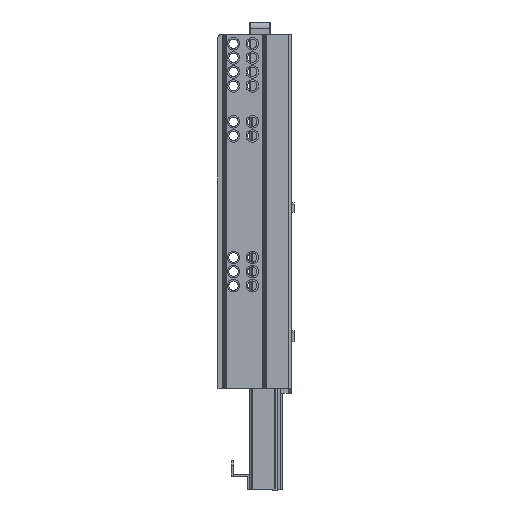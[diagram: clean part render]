
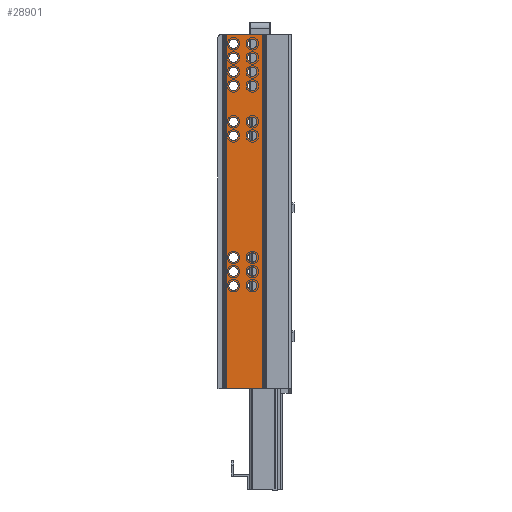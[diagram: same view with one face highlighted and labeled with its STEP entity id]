
A CAD part, left-side view. The second image highlights one B-rep face of the part: STEP entity #28901.
In plain terms, the highlighted planar face has unit normal (-1, 0, 0).
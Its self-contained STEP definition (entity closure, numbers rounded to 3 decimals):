
#829=FACE_BOUND('',#5920,.T.);
#830=FACE_BOUND('',#5921,.T.);
#831=FACE_BOUND('',#5922,.T.);
#832=FACE_BOUND('',#5923,.T.);
#833=FACE_BOUND('',#5924,.T.);
#834=FACE_BOUND('',#5925,.T.);
#835=FACE_BOUND('',#5926,.T.);
#836=FACE_BOUND('',#5927,.T.);
#837=FACE_BOUND('',#5928,.T.);
#838=FACE_BOUND('',#5929,.T.);
#839=FACE_BOUND('',#5930,.T.);
#840=FACE_BOUND('',#5931,.T.);
#841=FACE_BOUND('',#5932,.T.);
#842=FACE_BOUND('',#5933,.T.);
#843=FACE_BOUND('',#5934,.T.);
#844=FACE_BOUND('',#5935,.T.);
#845=FACE_BOUND('',#5936,.T.);
#846=FACE_BOUND('',#5937,.T.);
#1877=CIRCLE('',#30780,3.);
#1880=CIRCLE('',#30785,3.);
#1883=CIRCLE('',#30790,3.);
#1886=CIRCLE('',#30795,3.);
#1889=CIRCLE('',#30800,3.);
#1892=CIRCLE('',#30805,3.);
#1895=CIRCLE('',#30810,3.);
#1898=CIRCLE('',#30815,3.);
#1901=CIRCLE('',#30820,3.);
#1904=CIRCLE('',#30825,3.);
#1907=CIRCLE('',#30830,3.);
#1910=CIRCLE('',#30835,3.);
#1913=CIRCLE('',#30840,3.);
#1916=CIRCLE('',#30845,3.);
#1919=CIRCLE('',#30850,3.);
#1922=CIRCLE('',#30855,3.);
#1925=CIRCLE('',#30860,3.);
#1928=CIRCLE('',#30865,3.);
#4035=FACE_OUTER_BOUND('',#5919,.T.);
#5919=EDGE_LOOP('',(#18626,#18627,#18628,#18629));
#5920=EDGE_LOOP('',(#18630));
#5921=EDGE_LOOP('',(#18631));
#5922=EDGE_LOOP('',(#18632));
#5923=EDGE_LOOP('',(#18633));
#5924=EDGE_LOOP('',(#18634));
#5925=EDGE_LOOP('',(#18635));
#5926=EDGE_LOOP('',(#18636));
#5927=EDGE_LOOP('',(#18637));
#5928=EDGE_LOOP('',(#18638));
#5929=EDGE_LOOP('',(#18639));
#5930=EDGE_LOOP('',(#18640));
#5931=EDGE_LOOP('',(#18641));
#5932=EDGE_LOOP('',(#18642));
#5933=EDGE_LOOP('',(#18643));
#5934=EDGE_LOOP('',(#18644));
#5935=EDGE_LOOP('',(#18645));
#5936=EDGE_LOOP('',(#18646));
#5937=EDGE_LOOP('',(#18647));
#7938=LINE('',#44597,#9858);
#8010=LINE('',#44811,#9930);
#8013=LINE('',#44963,#9933);
#8019=LINE('',#44974,#9939);
#9858=VECTOR('',#34725,23.586);
#9930=VECTOR('',#34921,23.586);
#9933=VECTOR('',#35114,227.);
#9939=VECTOR('',#35130,227.);
#11772=VERTEX_POINT('',#44594);
#11773=VERTEX_POINT('',#44596);
#11852=VERTEX_POINT('',#44808);
#11853=VERTEX_POINT('',#44810);
#11856=VERTEX_POINT('',#44824);
#11859=VERTEX_POINT('',#44832);
#11862=VERTEX_POINT('',#44840);
#11865=VERTEX_POINT('',#44848);
#11868=VERTEX_POINT('',#44856);
#11871=VERTEX_POINT('',#44864);
#11874=VERTEX_POINT('',#44872);
#11877=VERTEX_POINT('',#44880);
#11880=VERTEX_POINT('',#44888);
#11883=VERTEX_POINT('',#44896);
#11886=VERTEX_POINT('',#44904);
#11889=VERTEX_POINT('',#44912);
#11892=VERTEX_POINT('',#44920);
#11895=VERTEX_POINT('',#44928);
#11898=VERTEX_POINT('',#44936);
#11901=VERTEX_POINT('',#44944);
#11904=VERTEX_POINT('',#44952);
#11907=VERTEX_POINT('',#44960);
#14200=EDGE_CURVE('',#11773,#11772,#7938,.T.);
#14309=EDGE_CURVE('',#11852,#11853,#8010,.T.);
#14315=EDGE_CURVE('',#11856,#11856,#1877,.T.);
#14318=EDGE_CURVE('',#11859,#11859,#1880,.T.);
#14321=EDGE_CURVE('',#11862,#11862,#1883,.T.);
#14324=EDGE_CURVE('',#11865,#11865,#1886,.T.);
#14327=EDGE_CURVE('',#11868,#11868,#1889,.T.);
#14330=EDGE_CURVE('',#11871,#11871,#1892,.T.);
#14333=EDGE_CURVE('',#11874,#11874,#1895,.T.);
#14336=EDGE_CURVE('',#11877,#11877,#1898,.T.);
#14339=EDGE_CURVE('',#11880,#11880,#1901,.T.);
#14342=EDGE_CURVE('',#11883,#11883,#1904,.T.);
#14345=EDGE_CURVE('',#11886,#11886,#1907,.T.);
#14348=EDGE_CURVE('',#11889,#11889,#1910,.T.);
#14351=EDGE_CURVE('',#11892,#11892,#1913,.T.);
#14354=EDGE_CURVE('',#11895,#11895,#1916,.T.);
#14357=EDGE_CURVE('',#11898,#11898,#1919,.T.);
#14360=EDGE_CURVE('',#11901,#11901,#1922,.T.);
#14363=EDGE_CURVE('',#11904,#11904,#1925,.T.);
#14366=EDGE_CURVE('',#11907,#11907,#1928,.T.);
#14367=EDGE_CURVE('',#11773,#11852,#8013,.T.);
#14373=EDGE_CURVE('',#11853,#11772,#8019,.T.);
#18626=ORIENTED_EDGE('',*,*,#14200,.T.);
#18627=ORIENTED_EDGE('',*,*,#14373,.F.);
#18628=ORIENTED_EDGE('',*,*,#14309,.F.);
#18629=ORIENTED_EDGE('',*,*,#14367,.F.);
#18630=ORIENTED_EDGE('',*,*,#14315,.T.);
#18631=ORIENTED_EDGE('',*,*,#14318,.T.);
#18632=ORIENTED_EDGE('',*,*,#14321,.T.);
#18633=ORIENTED_EDGE('',*,*,#14324,.T.);
#18634=ORIENTED_EDGE('',*,*,#14327,.T.);
#18635=ORIENTED_EDGE('',*,*,#14330,.T.);
#18636=ORIENTED_EDGE('',*,*,#14333,.T.);
#18637=ORIENTED_EDGE('',*,*,#14336,.T.);
#18638=ORIENTED_EDGE('',*,*,#14339,.T.);
#18639=ORIENTED_EDGE('',*,*,#14342,.T.);
#18640=ORIENTED_EDGE('',*,*,#14345,.T.);
#18641=ORIENTED_EDGE('',*,*,#14348,.T.);
#18642=ORIENTED_EDGE('',*,*,#14351,.T.);
#18643=ORIENTED_EDGE('',*,*,#14354,.T.);
#18644=ORIENTED_EDGE('',*,*,#14357,.T.);
#18645=ORIENTED_EDGE('',*,*,#14360,.T.);
#18646=ORIENTED_EDGE('',*,*,#14363,.T.);
#18647=ORIENTED_EDGE('',*,*,#14366,.T.);
#26553=PLANE('',#30872);
#28901=ADVANCED_FACE('',(#4035,#829,#830,#831,#832,#833,#834,#835,#836,
#837,#838,#839,#840,#841,#842,#843,#844,#845,#846),#26553,.T.);
#30780=AXIS2_PLACEMENT_3D('',#44825,#34940,#34941);
#30785=AXIS2_PLACEMENT_3D('',#44833,#34950,#34951);
#30790=AXIS2_PLACEMENT_3D('',#44841,#34960,#34961);
#30795=AXIS2_PLACEMENT_3D('',#44849,#34970,#34971);
#30800=AXIS2_PLACEMENT_3D('',#44857,#34980,#34981);
#30805=AXIS2_PLACEMENT_3D('',#44865,#34990,#34991);
#30810=AXIS2_PLACEMENT_3D('',#44873,#35000,#35001);
#30815=AXIS2_PLACEMENT_3D('',#44881,#35010,#35011);
#30820=AXIS2_PLACEMENT_3D('',#44889,#35020,#35021);
#30825=AXIS2_PLACEMENT_3D('',#44897,#35030,#35031);
#30830=AXIS2_PLACEMENT_3D('',#44905,#35040,#35041);
#30835=AXIS2_PLACEMENT_3D('',#44913,#35050,#35051);
#30840=AXIS2_PLACEMENT_3D('',#44921,#35060,#35061);
#30845=AXIS2_PLACEMENT_3D('',#44929,#35070,#35071);
#30850=AXIS2_PLACEMENT_3D('',#44937,#35080,#35081);
#30855=AXIS2_PLACEMENT_3D('',#44945,#35090,#35091);
#30860=AXIS2_PLACEMENT_3D('',#44953,#35100,#35101);
#30865=AXIS2_PLACEMENT_3D('',#44961,#35110,#35111);
#30872=AXIS2_PLACEMENT_3D('',#44975,#35131,#35132);
#34725=DIRECTION('',(0.,-1.,0.));
#34921=DIRECTION('',(0.,-1.,0.));
#34940=DIRECTION('center_axis',(1.,0.,0.));
#34941=DIRECTION('ref_axis',(0.,0.,-1.));
#34950=DIRECTION('center_axis',(1.,0.,0.));
#34951=DIRECTION('ref_axis',(0.,0.,-1.));
#34960=DIRECTION('center_axis',(1.,0.,0.));
#34961=DIRECTION('ref_axis',(0.,0.,-1.));
#34970=DIRECTION('center_axis',(1.,0.,0.));
#34971=DIRECTION('ref_axis',(0.,0.,-1.));
#34980=DIRECTION('center_axis',(1.,0.,0.));
#34981=DIRECTION('ref_axis',(0.,0.,-1.));
#34990=DIRECTION('center_axis',(1.,0.,0.));
#34991=DIRECTION('ref_axis',(0.,0.,-1.));
#35000=DIRECTION('center_axis',(1.,0.,0.));
#35001=DIRECTION('ref_axis',(0.,0.,-1.));
#35010=DIRECTION('center_axis',(1.,0.,0.));
#35011=DIRECTION('ref_axis',(0.,0.,-1.));
#35020=DIRECTION('center_axis',(1.,0.,0.));
#35021=DIRECTION('ref_axis',(0.,0.,-1.));
#35030=DIRECTION('center_axis',(1.,0.,0.));
#35031=DIRECTION('ref_axis',(0.,0.,-1.));
#35040=DIRECTION('center_axis',(1.,0.,0.));
#35041=DIRECTION('ref_axis',(0.,0.,-1.));
#35050=DIRECTION('center_axis',(1.,0.,0.));
#35051=DIRECTION('ref_axis',(0.,0.,-1.));
#35060=DIRECTION('center_axis',(1.,0.,0.));
#35061=DIRECTION('ref_axis',(0.,0.,-1.));
#35070=DIRECTION('center_axis',(1.,0.,0.));
#35071=DIRECTION('ref_axis',(0.,0.,-1.));
#35080=DIRECTION('center_axis',(1.,0.,0.));
#35081=DIRECTION('ref_axis',(0.,0.,-1.));
#35090=DIRECTION('center_axis',(1.,0.,0.));
#35091=DIRECTION('ref_axis',(0.,0.,-1.));
#35100=DIRECTION('center_axis',(1.,0.,0.));
#35101=DIRECTION('ref_axis',(0.,0.,-1.));
#35110=DIRECTION('center_axis',(1.,0.,0.));
#35111=DIRECTION('ref_axis',(0.,0.,-1.));
#35114=DIRECTION('',(0.,0.,1.));
#35130=DIRECTION('',(0.,0.,-1.));
#35131=DIRECTION('center_axis',(-1.,0.,0.));
#35132=DIRECTION('ref_axis',(0.,1.,0.));
#44594=CARTESIAN_POINT('',(1.,18.207,-227.));
#44596=CARTESIAN_POINT('',(1.,41.793,-227.));
#44597=CARTESIAN_POINT('',(1.,16.5,-227.));
#44808=CARTESIAN_POINT('',(1.,41.793,0.));
#44810=CARTESIAN_POINT('',(1.,18.207,0.));
#44811=CARTESIAN_POINT('',(1.,42.,0.));
#44824=CARTESIAN_POINT('',(1.,37.,-158.));
#44825=CARTESIAN_POINT('Origin',(1.,37.,-161.));
#44832=CARTESIAN_POINT('',(1.,37.,-149.));
#44833=CARTESIAN_POINT('Origin',(1.,37.,-152.));
#44840=CARTESIAN_POINT('',(1.,37.,-140.));
#44841=CARTESIAN_POINT('Origin',(1.,37.,-143.));
#44848=CARTESIAN_POINT('',(1.,25.,-140.));
#44849=CARTESIAN_POINT('Origin',(1.,25.,-143.));
#44856=CARTESIAN_POINT('',(1.,25.,-149.));
#44857=CARTESIAN_POINT('Origin',(1.,25.,-152.));
#44864=CARTESIAN_POINT('',(1.,25.,-158.));
#44865=CARTESIAN_POINT('Origin',(1.,25.,-161.));
#44872=CARTESIAN_POINT('',(1.,25.,-53.));
#44873=CARTESIAN_POINT('Origin',(1.,25.,-56.));
#44880=CARTESIAN_POINT('',(1.,37.,-53.));
#44881=CARTESIAN_POINT('Origin',(1.,37.,-56.));
#44888=CARTESIAN_POINT('',(1.,37.,-30.));
#44889=CARTESIAN_POINT('Origin',(1.,37.,-33.));
#44896=CARTESIAN_POINT('',(1.,37.,-21.));
#44897=CARTESIAN_POINT('Origin',(1.,37.,-24.));
#44904=CARTESIAN_POINT('',(1.,37.,-12.));
#44905=CARTESIAN_POINT('Origin',(1.,37.,-15.));
#44912=CARTESIAN_POINT('',(1.,37.,-3.));
#44913=CARTESIAN_POINT('Origin',(1.,37.,-6.));
#44920=CARTESIAN_POINT('',(1.,25.,-3.));
#44921=CARTESIAN_POINT('Origin',(1.,25.,-6.));
#44928=CARTESIAN_POINT('',(1.,25.,-12.));
#44929=CARTESIAN_POINT('Origin',(1.,25.,-15.));
#44936=CARTESIAN_POINT('',(1.,25.,-21.));
#44937=CARTESIAN_POINT('Origin',(1.,25.,-24.));
#44944=CARTESIAN_POINT('',(1.,25.,-30.));
#44945=CARTESIAN_POINT('Origin',(1.,25.,-33.));
#44952=CARTESIAN_POINT('',(1.,37.,-62.));
#44953=CARTESIAN_POINT('Origin',(1.,37.,-65.));
#44960=CARTESIAN_POINT('',(1.,25.,-62.));
#44961=CARTESIAN_POINT('Origin',(1.,25.,-65.));
#44963=CARTESIAN_POINT('',(1.,41.793,0.));
#44974=CARTESIAN_POINT('',(1.,18.207,0.));
#44975=CARTESIAN_POINT('Origin',(1.,18.,0.));
